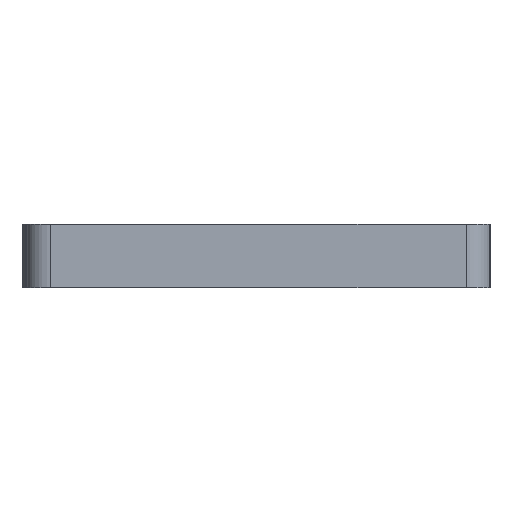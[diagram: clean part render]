
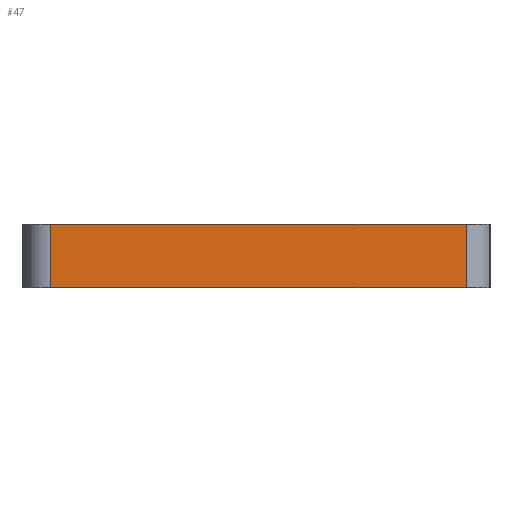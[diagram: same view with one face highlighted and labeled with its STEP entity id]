
A CAD part, left-side view. The second image highlights one B-rep face of the part: STEP entity #47.
In plain terms, the highlighted planar face has unit normal (-1, 0, 0).
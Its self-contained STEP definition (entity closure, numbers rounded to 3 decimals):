
#47 = ADVANCED_FACE('',(#48),#62,.F.);
#48 = FACE_BOUND('',#49,.F.);
#49 = EDGE_LOOP('',(#50,#85,#113,#141));
#50 = ORIENTED_EDGE('',*,*,#51,.F.);
#51 = EDGE_CURVE('',#52,#54,#56,.T.);
#52 = VERTEX_POINT('',#53);
#53 = CARTESIAN_POINT('',(0.,1.5,4.));
#54 = VERTEX_POINT('',#55);
#55 = CARTESIAN_POINT('',(0.,27.6,4.));
#56 = SURFACE_CURVE('',#57,(#61,#73),.PCURVE_S1.);
#57 = LINE('',#58,#59);
#58 = CARTESIAN_POINT('',(0.,0.,4.));
#59 = VECTOR('',#60,1.);
#60 = DIRECTION('',(0.,1.,0.));
#61 = PCURVE('',#62,#67);
#62 = PLANE('',#63);
#63 = AXIS2_PLACEMENT_3D('',#64,#65,#66);
#64 = CARTESIAN_POINT('',(0.,0.,0.));
#65 = DIRECTION('',(1.,0.,0.));
#66 = DIRECTION('',(0.,0.,1.));
#67 = DEFINITIONAL_REPRESENTATION('',(#68),#72);
#68 = LINE('',#69,#70);
#69 = CARTESIAN_POINT('',(4.,0.));
#70 = VECTOR('',#71,1.);
#71 = DIRECTION('',(0.,-1.));
#72 = ( GEOMETRIC_REPRESENTATION_CONTEXT(2) 
PARAMETRIC_REPRESENTATION_CONTEXT() REPRESENTATION_CONTEXT('2D SPACE',''
  ) );
#73 = PCURVE('',#74,#79);
#74 = PLANE('',#75);
#75 = AXIS2_PLACEMENT_3D('',#76,#77,#78);
#76 = CARTESIAN_POINT('',(0.,0.,4.));
#77 = DIRECTION('',(0.,0.,1.));
#78 = DIRECTION('',(1.,0.,0.));
#79 = DEFINITIONAL_REPRESENTATION('',(#80),#84);
#80 = LINE('',#81,#82);
#81 = CARTESIAN_POINT('',(0.,0.));
#82 = VECTOR('',#83,1.);
#83 = DIRECTION('',(0.,1.));
#84 = ( GEOMETRIC_REPRESENTATION_CONTEXT(2) 
PARAMETRIC_REPRESENTATION_CONTEXT() REPRESENTATION_CONTEXT('2D SPACE',''
  ) );
#85 = ORIENTED_EDGE('',*,*,#86,.F.);
#86 = EDGE_CURVE('',#87,#52,#89,.T.);
#87 = VERTEX_POINT('',#88);
#88 = CARTESIAN_POINT('',(0.,1.5,0.));
#89 = SURFACE_CURVE('',#90,(#94,#101),.PCURVE_S1.);
#90 = LINE('',#91,#92);
#91 = CARTESIAN_POINT('',(0.,1.5,0.));
#92 = VECTOR('',#93,1.);
#93 = DIRECTION('',(0.,0.,1.));
#94 = PCURVE('',#62,#95);
#95 = DEFINITIONAL_REPRESENTATION('',(#96),#100);
#96 = LINE('',#97,#98);
#97 = CARTESIAN_POINT('',(0.,-1.5));
#98 = VECTOR('',#99,1.);
#99 = DIRECTION('',(1.,0.));
#100 = ( GEOMETRIC_REPRESENTATION_CONTEXT(2) 
PARAMETRIC_REPRESENTATION_CONTEXT() REPRESENTATION_CONTEXT('2D SPACE',''
  ) );
#101 = PCURVE('',#102,#107);
#102 = CYLINDRICAL_SURFACE('',#103,1.5);
#103 = AXIS2_PLACEMENT_3D('',#104,#105,#106);
#104 = CARTESIAN_POINT('',(1.5,1.5,0.));
#105 = DIRECTION('',(0.,0.,1.));
#106 = DIRECTION('',(-1.,-0.,0.));
#107 = DEFINITIONAL_REPRESENTATION('',(#108),#112);
#108 = LINE('',#109,#110);
#109 = CARTESIAN_POINT('',(0.,0.));
#110 = VECTOR('',#111,1.);
#111 = DIRECTION('',(0.,1.));
#112 = ( GEOMETRIC_REPRESENTATION_CONTEXT(2) 
PARAMETRIC_REPRESENTATION_CONTEXT() REPRESENTATION_CONTEXT('2D SPACE',''
  ) );
#113 = ORIENTED_EDGE('',*,*,#114,.T.);
#114 = EDGE_CURVE('',#87,#115,#117,.T.);
#115 = VERTEX_POINT('',#116);
#116 = CARTESIAN_POINT('',(0.,27.6,0.));
#117 = SURFACE_CURVE('',#118,(#122,#129),.PCURVE_S1.);
#118 = LINE('',#119,#120);
#119 = CARTESIAN_POINT('',(0.,0.,0.));
#120 = VECTOR('',#121,1.);
#121 = DIRECTION('',(0.,1.,0.));
#122 = PCURVE('',#62,#123);
#123 = DEFINITIONAL_REPRESENTATION('',(#124),#128);
#124 = LINE('',#125,#126);
#125 = CARTESIAN_POINT('',(0.,0.));
#126 = VECTOR('',#127,1.);
#127 = DIRECTION('',(0.,-1.));
#128 = ( GEOMETRIC_REPRESENTATION_CONTEXT(2) 
PARAMETRIC_REPRESENTATION_CONTEXT() REPRESENTATION_CONTEXT('2D SPACE',''
  ) );
#129 = PCURVE('',#130,#135);
#130 = PLANE('',#131);
#131 = AXIS2_PLACEMENT_3D('',#132,#133,#134);
#132 = CARTESIAN_POINT('',(0.,0.,0.));
#133 = DIRECTION('',(0.,0.,1.));
#134 = DIRECTION('',(1.,0.,0.));
#135 = DEFINITIONAL_REPRESENTATION('',(#136),#140);
#136 = LINE('',#137,#138);
#137 = CARTESIAN_POINT('',(0.,0.));
#138 = VECTOR('',#139,1.);
#139 = DIRECTION('',(0.,1.));
#140 = ( GEOMETRIC_REPRESENTATION_CONTEXT(2) 
PARAMETRIC_REPRESENTATION_CONTEXT() REPRESENTATION_CONTEXT('2D SPACE',''
  ) );
#141 = ORIENTED_EDGE('',*,*,#142,.T.);
#142 = EDGE_CURVE('',#115,#54,#143,.T.);
#143 = SURFACE_CURVE('',#144,(#148,#155),.PCURVE_S1.);
#144 = LINE('',#145,#146);
#145 = CARTESIAN_POINT('',(0.,27.6,0.));
#146 = VECTOR('',#147,1.);
#147 = DIRECTION('',(0.,0.,1.));
#148 = PCURVE('',#62,#149);
#149 = DEFINITIONAL_REPRESENTATION('',(#150),#154);
#150 = LINE('',#151,#152);
#151 = CARTESIAN_POINT('',(0.,-27.6));
#152 = VECTOR('',#153,1.);
#153 = DIRECTION('',(1.,0.));
#154 = ( GEOMETRIC_REPRESENTATION_CONTEXT(2) 
PARAMETRIC_REPRESENTATION_CONTEXT() REPRESENTATION_CONTEXT('2D SPACE',''
  ) );
#155 = PCURVE('',#156,#161);
#156 = CYLINDRICAL_SURFACE('',#157,1.5);
#157 = AXIS2_PLACEMENT_3D('',#158,#159,#160);
#158 = CARTESIAN_POINT('',(1.5,27.6,0.));
#159 = DIRECTION('',(0.,0.,1.));
#160 = DIRECTION('',(-1.,-0.,0.));
#161 = DEFINITIONAL_REPRESENTATION('',(#162),#166);
#162 = LINE('',#163,#164);
#163 = CARTESIAN_POINT('',(-0.,0.));
#164 = VECTOR('',#165,1.);
#165 = DIRECTION('',(-0.,1.));
#166 = ( GEOMETRIC_REPRESENTATION_CONTEXT(2) 
PARAMETRIC_REPRESENTATION_CONTEXT() REPRESENTATION_CONTEXT('2D SPACE',''
  ) );
